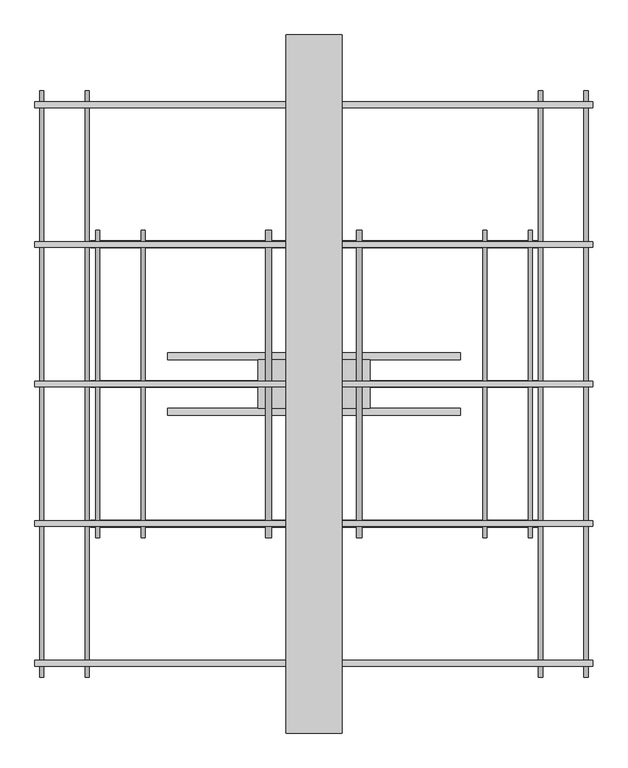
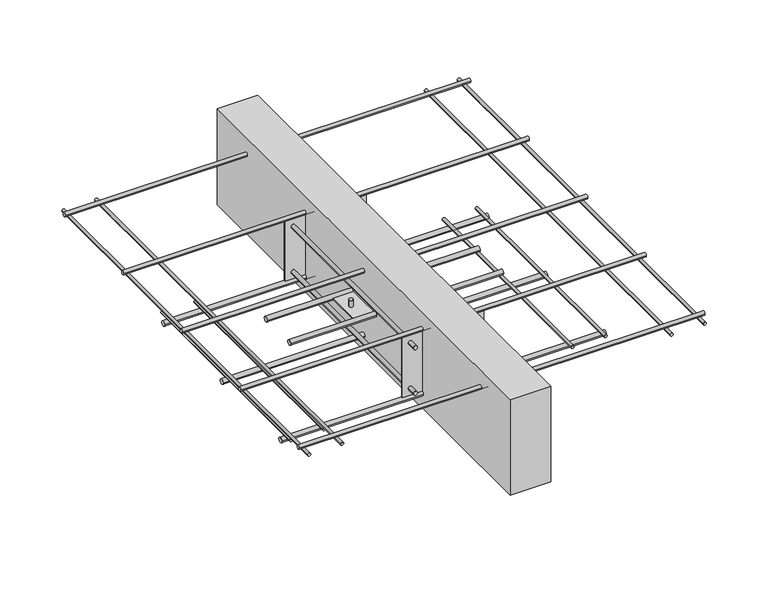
"""IFC4 building model written with IfcOpenShell, lengths in millimetres: proxy geometry, ACINOXplus_Typenreihe_K : KA+ S1."""

from ifc_helpers import new_model, si_unit, point, frame, frame_2d, origin, place, context, project, spatial, polyline, circle_curve, trimmed, segment, composite_curve, outline, extrude, source, transform, mapped, element, save
from ifc_brep_helpers import plane_surface, cylinder_surface, advanced_brep


def generic_models_7b37680f(model_context):
    return source(origin(), model_context, "Body", "SolidModel", [
        extrude(outline(polyline([(40.0, 500.0), (40.0, -500.0), (-40.0, -500.0), (-40.0, 500.0), (40.0, 500.0)])), frame((0.0, 0.0, -200.0), z_axis=(0.0, 0.0, 1.0), x_axis=(1.0, 0.0, 0.0)), (0.0, 0.0, 1.0), 200.0),
        extrude(outline(composite_curve([segment(trimmed(circle_curve(frame_2d((-40.0, -100.5)), 5.0), [point((-45.0, -100.5))], [point((-35.0, -100.5))], False, "CARTESIAN"), True, "CONTINUOUS"), segment(trimmed(circle_curve(frame_2d((-40.0, -100.5)), 5.0), [point((-35.0, -100.5))], [point((-45.0, -100.5))], False, "CARTESIAN"), True, "CONTINUOUS")], self_intersect=False)), frame((-210.0, 0.0, 0.0), z_axis=(1.0, 0.0, 0.0), x_axis=(0.0, 1.0, 0.0)), (0.0, 0.0, 1.0), 420.0),
        extrude(outline(composite_curve([segment(trimmed(circle_curve(frame_2d((40.0, -100.5)), 5.0), [point((35.0, -100.5))], [point((45.0, -100.5))], False, "CARTESIAN"), True, "CONTINUOUS"), segment(trimmed(circle_curve(frame_2d((40.0, -100.5)), 5.0), [point((45.0, -100.5))], [point((35.0, -100.5))], False, "CARTESIAN"), True, "CONTINUOUS")], self_intersect=False)), frame((-210.0, 0.0, 0.0), z_axis=(1.0, 0.0, 0.0), x_axis=(0.0, 1.0, 0.0)), (0.0, 0.0, 1.0), 420.0),
        advanced_brep(
        [(-69.0, 0.0, -85.5), (-61.0, 0.0, -85.5), (61.0, 0.0, -85.5), (69.0, 0.0, -85.5), (-69.0, 0.0, -115.5), (-61.0, 0.0, -115.5), (61.0, 0.0, -115.5), (69.0, 0.0, -115.5), (-69.0, 0.0, -99.0), (-61.0, 0.0, -99.0), (-61.0, 0.0, -102.0), (-69.0, 0.0, -102.0), (61.0, 0.0, -99.0), (69.0, 0.0, -99.0), (69.0, 0.0, -102.0), (61.0, 0.0, -102.0), (80.0, 35.0, -99.0), (-80.0, 35.0, -99.0), (-80.0, -35.0, -99.0), (80.0, -35.0, -99.0), (80.0, 35.0, -102.0), (80.0, -35.0, -102.0), (-80.0, -35.0, -102.0), (-80.0, 35.0, -102.0)],
        [
            (0, 1, circle_curve(frame((-65.0, 0.0, -85.5), z_axis=(0.0, 0.0, 1.0), x_axis=(1.0, 0.0, 0.0)), 4.0)),
            (1, 0, circle_curve(frame((-65.0, 0.0, -85.5), z_axis=(0.0, 0.0, 1.0), x_axis=(1.0, 0.0, 0.0)), 4.0)),
            (2, 3, circle_curve(frame((65.0, 0.0, -85.5), z_axis=(0.0, 0.0, 1.0), x_axis=(1.0, 0.0, 0.0)), 4.0)),
            (3, 2, circle_curve(frame((65.0, 0.0, -85.5), z_axis=(0.0, 0.0, 1.0), x_axis=(1.0, 0.0, 0.0)), 4.0)),
            (4, 5, circle_curve(frame((-65.0, 0.0, -115.5), z_axis=(0.0, 0.0, -1.0), x_axis=(1.0, 0.0, 0.0)), 4.0)),
            (5, 4, circle_curve(frame((-65.0, 0.0, -115.5), z_axis=(0.0, 0.0, -1.0), x_axis=(1.0, 0.0, 0.0)), 4.0)),
            (6, 7, circle_curve(frame((65.0, 0.0, -115.5), z_axis=(0.0, 0.0, -1.0), x_axis=(1.0, 0.0, 0.0)), 4.0)),
            (7, 6, circle_curve(frame((65.0, 0.0, -115.5), z_axis=(0.0, 0.0, -1.0), x_axis=(1.0, 0.0, 0.0)), 4.0)),
            (0, 8),
            (8, 9, circle_curve(frame((-65.0, 0.0, -99.0), z_axis=(0.0, 0.0, 1.0), x_axis=(1.0, 0.0, 0.0)), 4.0)),
            (9, 1),
            (5, 10),
            (10, 11, circle_curve(frame((-65.0, 0.0, -102.0), z_axis=(0.0, 0.0, -1.0), x_axis=(1.0, 0.0, 0.0)), 4.0)),
            (11, 4),
            (9, 8, circle_curve(frame((-65.0, 0.0, -99.0), z_axis=(0.0, 0.0, 1.0), x_axis=(1.0, 0.0, 0.0)), 4.0)),
            (11, 10, circle_curve(frame((-65.0, 0.0, -102.0), z_axis=(0.0, 0.0, -1.0), x_axis=(1.0, 0.0, 0.0)), 4.0)),
            (2, 12),
            (12, 13, circle_curve(frame((65.0, 0.0, -99.0), z_axis=(0.0, 0.0, 1.0), x_axis=(1.0, 0.0, 0.0)), 4.0)),
            (13, 3),
            (7, 14),
            (14, 15, circle_curve(frame((65.0, 0.0, -102.0), z_axis=(0.0, 0.0, -1.0), x_axis=(1.0, 0.0, 0.0)), 4.0)),
            (15, 6),
            (13, 12, circle_curve(frame((65.0, 0.0, -99.0), z_axis=(0.0, 0.0, 1.0), x_axis=(1.0, 0.0, 0.0)), 4.0)),
            (15, 14, circle_curve(frame((65.0, 0.0, -102.0), z_axis=(0.0, 0.0, -1.0), x_axis=(1.0, 0.0, 0.0)), 4.0)),
            (16, 17),
            (17, 18),
            (18, 19),
            (19, 16),
            (20, 21),
            (21, 22),
            (22, 23),
            (23, 20),
            (16, 20),
            (23, 17),
            (22, 18),
            (21, 19),
        ],
        [
            plane_surface(frame((-61.0, 0.0, -85.5), z_axis=(0.0, 0.0, 1.0), x_axis=(0.0, 1.0, 0.0))),
            plane_surface(frame((-61.0, 0.0, -115.5), z_axis=(0.0, 0.0, -1.0), x_axis=(0.0, -1.0, 0.0))),
            cylinder_surface(frame((-65.0, 0.0, -115.5), z_axis=(0.0, 0.0, 1.0), x_axis=(1.0, 0.0, 0.0)), 4.0),
            cylinder_surface(frame((65.0, 0.0, -100.5), z_axis=(0.0, 0.0, 1.0), x_axis=(1.0, 0.0, 0.0)), 4.0),
            plane_surface(frame((-80.0, 35.0, -99.0), z_axis=(0.0, 0.0, 1.0), x_axis=(-1.0, 0.0, 0.0))),
            plane_surface(frame((-80.0, 35.0, -102.0), z_axis=(0.0, 0.0, -1.0), x_axis=(1.0, 0.0, 0.0))),
            plane_surface(frame((80.0, 35.0, -99.0), z_axis=(0.0, 1.0, 0.0), x_axis=(0.0, 0.0, -1.0))),
            plane_surface(frame((-80.0, 35.0, -99.0), z_axis=(-1.0, 0.0, 0.0), x_axis=(0.0, 0.0, -1.0))),
            plane_surface(frame((-80.0, -35.0, -99.0), z_axis=(0.0, -1.0, 0.0), x_axis=(0.0, 0.0, -1.0))),
            plane_surface(frame((80.0, -35.0, -99.0), z_axis=(1.0, 0.0, 0.0), x_axis=(0.0, 0.0, -1.0))),
        ],
        [
            (0, [[1, 2]]),
            (0, [[3, 4]]),
            (1, [[5, 6]]),
            (1, [[7, 8]]),
            (2, [[-1, 9, 10, 11]]),
            (2, [[-6, 12, 13, 14]]),
            (2, [[-2, -11, 15, -9]]),
            (2, [[-5, -14, 16, -12]]),
            (3, [[-3, 17, 18, 19]]),
            (3, [[-8, 20, 21, 22]]),
            (3, [[-4, -19, 23, -17]]),
            (3, [[-7, -22, 24, -20]]),
            (4, [[25, 26, 27, 28], [-10, -15], [-18, -23]]),
            (5, [[29, 30, 31, 32], [-13, -16], [-21, -24]]),
            (6, [[-25, 33, -32, 34]]),
            (7, [[-26, -34, -31, 35]]),
            (8, [[-27, -35, -30, 36]]),
            (9, [[-28, -36, -29, -33]]),
        ],
    ),
        extrude(outline(polyline([(80.0, -198.5), (80.0, -201.5), (-80.0, -201.5), (-80.0, -198.5), (80.0, -198.5)])), frame((0.0, 0.0, -163.0), z_axis=(0.0, 0.0, 1.0), x_axis=(1.0, 0.0, 0.0)), (0.0, 0.0, 1.0), 125.0),
        extrude(outline(polyline([(80.0, 201.5), (80.0, 198.5), (-80.0, 198.5), (-80.0, 201.5), (80.0, 201.5)])), frame((0.0, 0.0, -163.0), z_axis=(0.0, 0.0, 1.0), x_axis=(1.0, 0.0, 0.0)), (0.0, 0.0, 1.0), 125.0),
        extrude(outline(composite_curve([segment(trimmed(circle_curve(frame_2d((-148.0, -65.0)), 4.0), [point((-148.0, -69.0))], [point((-148.0, -61.0))], False, "CARTESIAN"), True, "CONTINUOUS"), segment(trimmed(circle_curve(frame_2d((-148.0, -65.0)), 4.0), [point((-148.0, -61.0))], [point((-148.0, -69.0))], False, "CARTESIAN"), True, "CONTINUOUS")], self_intersect=False)), frame((0.0, 201.5, 0.0), z_axis=(0.0, 1.0, 0.0), x_axis=(0.0, 0.0, 1.0)), (0.0, 0.0, 1.0), 18.5),
        extrude(outline(composite_curve([segment(trimmed(circle_curve(frame_2d((-148.0, -65.0)), 4.0), [point((-148.0, -61.0))], [point((-148.0, -69.0))], False, "CARTESIAN"), True, "CONTINUOUS"), segment(trimmed(circle_curve(frame_2d((-148.0, -65.0)), 4.0), [point((-148.0, -69.0))], [point((-148.0, -61.0))], False, "CARTESIAN"), True, "CONTINUOUS")], self_intersect=False)), frame((0.0, -220.0, 0.0), z_axis=(0.0, 1.0, 0.0), x_axis=(0.0, 0.0, 1.0)), (0.0, 0.0, 1.0), 18.5),
        extrude(outline(composite_curve([segment(trimmed(circle_curve(frame_2d((-148.0, -65.0)), 4.0), [point((-148.0, -69.0))], [point((-148.0, -61.0))], False, "CARTESIAN"), True, "CONTINUOUS"), segment(trimmed(circle_curve(frame_2d((-148.0, -65.0)), 4.0), [point((-148.0, -61.0))], [point((-148.0, -69.0))], False, "CARTESIAN"), True, "CONTINUOUS")], self_intersect=False)), frame((0.0, -198.5, 0.0), z_axis=(0.0, 1.0, 0.0), x_axis=(0.0, 0.0, 1.0)), (0.0, 0.0, 1.0), 397.0),
        extrude(outline(composite_curve([segment(trimmed(circle_curve(frame_2d((-148.0, 65.0)), 4.0), [point((-148.0, 61.0))], [point((-148.0, 69.0))], False, "CARTESIAN"), True, "CONTINUOUS"), segment(trimmed(circle_curve(frame_2d((-148.0, 65.0)), 4.0), [point((-148.0, 69.0))], [point((-148.0, 61.0))], False, "CARTESIAN"), True, "CONTINUOUS")], self_intersect=False)), frame((0.0, 201.5, 0.0), z_axis=(0.0, 1.0, 0.0), x_axis=(0.0, 0.0, 1.0)), (0.0, 0.0, 1.0), 18.5),
        extrude(outline(composite_curve([segment(trimmed(circle_curve(frame_2d((-148.0, 65.0)), 4.0), [point((-148.0, 69.0))], [point((-148.0, 61.0))], False, "CARTESIAN"), True, "CONTINUOUS"), segment(trimmed(circle_curve(frame_2d((-148.0, 65.0)), 4.0), [point((-148.0, 61.0))], [point((-148.0, 69.0))], False, "CARTESIAN"), True, "CONTINUOUS")], self_intersect=False)), frame((0.0, -220.0, 0.0), z_axis=(0.0, 1.0, 0.0), x_axis=(0.0, 0.0, 1.0)), (0.0, 0.0, 1.0), 18.5),
        extrude(outline(composite_curve([segment(trimmed(circle_curve(frame_2d((-148.0, 65.0)), 4.0), [point((-148.0, 61.0))], [point((-148.0, 69.0))], False, "CARTESIAN"), True, "CONTINUOUS"), segment(trimmed(circle_curve(frame_2d((-148.0, 65.0)), 4.0), [point((-148.0, 69.0))], [point((-148.0, 61.0))], False, "CARTESIAN"), True, "CONTINUOUS")], self_intersect=False)), frame((0.0, -198.5, 0.0), z_axis=(0.0, 1.0, 0.0), x_axis=(0.0, 0.0, 1.0)), (0.0, 0.0, 1.0), 397.0),
        extrude(outline(composite_curve([segment(trimmed(circle_curve(frame_2d((-53.0, -65.0)), 4.0), [point((-53.0, -69.0))], [point((-53.0, -61.0))], False, "CARTESIAN"), True, "CONTINUOUS"), segment(trimmed(circle_curve(frame_2d((-53.0, -65.0)), 4.0), [point((-53.0, -61.0))], [point((-53.0, -69.0))], False, "CARTESIAN"), True, "CONTINUOUS")], self_intersect=False)), frame((0.0, 201.5, 0.0), z_axis=(0.0, 1.0, 0.0), x_axis=(0.0, 0.0, 1.0)), (0.0, 0.0, 1.0), 18.5),
        extrude(outline(composite_curve([segment(trimmed(circle_curve(frame_2d((-53.0, -65.0)), 4.0), [point((-53.0, -61.0))], [point((-53.0, -69.0))], False, "CARTESIAN"), True, "CONTINUOUS"), segment(trimmed(circle_curve(frame_2d((-53.0, -65.0)), 4.0), [point((-53.0, -69.0))], [point((-53.0, -61.0))], False, "CARTESIAN"), True, "CONTINUOUS")], self_intersect=False)), frame((0.0, -220.0, 0.0), z_axis=(0.0, 1.0, 0.0), x_axis=(0.0, 0.0, 1.0)), (0.0, 0.0, 1.0), 18.5),
        extrude(outline(composite_curve([segment(trimmed(circle_curve(frame_2d((-53.0, -65.0)), 4.0), [point((-53.0, -69.0))], [point((-53.0, -61.0))], False, "CARTESIAN"), True, "CONTINUOUS"), segment(trimmed(circle_curve(frame_2d((-53.0, -65.0)), 4.0), [point((-53.0, -61.0))], [point((-53.0, -69.0))], False, "CARTESIAN"), True, "CONTINUOUS")], self_intersect=False)), frame((0.0, -198.5, 0.0), z_axis=(0.0, 1.0, 0.0), x_axis=(0.0, 0.0, 1.0)), (0.0, 0.0, 1.0), 397.0),
        extrude(outline(composite_curve([segment(trimmed(circle_curve(frame_2d((-53.0, 65.0)), 4.0), [point((-53.0, 61.0))], [point((-53.0, 69.0))], False, "CARTESIAN"), True, "CONTINUOUS"), segment(trimmed(circle_curve(frame_2d((-53.0, 65.0)), 4.0), [point((-53.0, 69.0))], [point((-53.0, 61.0))], False, "CARTESIAN"), True, "CONTINUOUS")], self_intersect=False)), frame((0.0, 201.5, 0.0), z_axis=(0.0, 1.0, 0.0), x_axis=(0.0, 0.0, 1.0)), (0.0, 0.0, 1.0), 18.5),
        extrude(outline(composite_curve([segment(trimmed(circle_curve(frame_2d((-53.0, 65.0)), 4.0), [point((-53.0, 69.0))], [point((-53.0, 61.0))], False, "CARTESIAN"), True, "CONTINUOUS"), segment(trimmed(circle_curve(frame_2d((-53.0, 65.0)), 4.0), [point((-53.0, 61.0))], [point((-53.0, 69.0))], False, "CARTESIAN"), True, "CONTINUOUS")], self_intersect=False)), frame((0.0, -220.0, 0.0), z_axis=(0.0, 1.0, 0.0), x_axis=(0.0, 0.0, 1.0)), (0.0, 0.0, 1.0), 18.5),
        extrude(outline(composite_curve([segment(trimmed(circle_curve(frame_2d((-53.0, 65.0)), 4.0), [point((-53.0, 61.0))], [point((-53.0, 69.0))], False, "CARTESIAN"), True, "CONTINUOUS"), segment(trimmed(circle_curve(frame_2d((-53.0, 65.0)), 4.0), [point((-53.0, 69.0))], [point((-53.0, 61.0))], False, "CARTESIAN"), True, "CONTINUOUS")], self_intersect=False)), frame((0.0, -198.5, 0.0), z_axis=(0.0, 1.0, 0.0), x_axis=(0.0, 0.0, 1.0)), (0.0, 0.0, 1.0), 397.0),
        extrude(outline(composite_curve([segment(trimmed(circle_curve(frame_2d((0.0, -168.0)), 5.0), [point((-5.0, -168.0))], [point((5.0, -168.0))], False, "CARTESIAN"), True, "CONTINUOUS"), segment(trimmed(circle_curve(frame_2d((0.0, -168.0)), 5.0), [point((5.0, -168.0))], [point((-5.0, -168.0))], False, "CARTESIAN"), True, "CONTINUOUS")], self_intersect=False)), frame((-320.0, 0.0, 0.0), z_axis=(1.0, 0.0, 0.0), x_axis=(0.0, 1.0, 0.0)), (0.0, 0.0, 1.0), 640.0),
        extrude(outline(composite_curve([segment(trimmed(circle_curve(frame_2d((200.0, -168.0)), 5.0), [point((195.0, -168.0))], [point((205.0, -168.0))], False, "CARTESIAN"), True, "CONTINUOUS"), segment(trimmed(circle_curve(frame_2d((200.0, -168.0)), 5.0), [point((205.0, -168.0))], [point((195.0, -168.0))], False, "CARTESIAN"), True, "CONTINUOUS")], self_intersect=False)), frame((-320.0, 0.0, 0.0), z_axis=(1.0, 0.0, 0.0), x_axis=(0.0, 1.0, 0.0)), (0.0, 0.0, 1.0), 640.0),
        extrude(outline(composite_curve([segment(trimmed(circle_curve(frame_2d((-200.0, -168.0)), 5.0), [point((-205.0, -168.0))], [point((-195.0, -168.0))], False, "CARTESIAN"), True, "CONTINUOUS"), segment(trimmed(circle_curve(frame_2d((-200.0, -168.0)), 5.0), [point((-195.0, -168.0))], [point((-205.0, -168.0))], False, "CARTESIAN"), True, "CONTINUOUS")], self_intersect=False)), frame((-320.0, 0.0, 0.0), z_axis=(1.0, 0.0, 0.0), x_axis=(0.0, 1.0, 0.0)), (0.0, 0.0, 1.0), 640.0),
        extrude(outline(composite_curve([segment(trimmed(circle_curve(frame_2d((0.0, -34.0)), 4.0), [point((-4.0, -34.0))], [point((4.0, -34.0))], False, "CARTESIAN"), True, "CONTINUOUS"), segment(trimmed(circle_curve(frame_2d((0.0, -34.0)), 4.0), [point((4.0, -34.0))], [point((-4.0, -34.0))], False, "CARTESIAN"), True, "CONTINUOUS")], self_intersect=False)), frame((-400.0, 0.0, 0.0), z_axis=(1.0, 0.0, 0.0), x_axis=(0.0, 1.0, 0.0)), (0.0, 0.0, 1.0), 800.0),
        extrude(outline(composite_curve([segment(trimmed(circle_curve(frame_2d((200.0, -34.0)), 4.0), [point((196.0, -34.0))], [point((204.0, -34.0))], False, "CARTESIAN"), True, "CONTINUOUS"), segment(trimmed(circle_curve(frame_2d((200.0, -34.0)), 4.0), [point((204.0, -34.0))], [point((196.0, -34.0))], False, "CARTESIAN"), True, "CONTINUOUS")], self_intersect=False)), frame((-400.0, 0.0, 0.0), z_axis=(1.0, 0.0, 0.0), x_axis=(0.0, 1.0, 0.0)), (0.0, 0.0, 1.0), 800.0),
        extrude(outline(composite_curve([segment(trimmed(circle_curve(frame_2d((400.0, -34.0)), 4.0), [point((396.0, -34.0))], [point((404.0, -34.0))], False, "CARTESIAN"), True, "CONTINUOUS"), segment(trimmed(circle_curve(frame_2d((400.0, -34.0)), 4.0), [point((404.0, -34.0))], [point((396.0, -34.0))], False, "CARTESIAN"), True, "CONTINUOUS")], self_intersect=False)), frame((-400.0, 0.0, 0.0), z_axis=(1.0, 0.0, 0.0), x_axis=(0.0, 1.0, 0.0)), (0.0, 0.0, 1.0), 800.0),
        extrude(outline(composite_curve([segment(trimmed(circle_curve(frame_2d((-200.0, -34.0)), 4.0), [point((-204.0, -34.0))], [point((-196.0, -34.0))], False, "CARTESIAN"), True, "CONTINUOUS"), segment(trimmed(circle_curve(frame_2d((-200.0, -34.0)), 4.0), [point((-196.0, -34.0))], [point((-204.0, -34.0))], False, "CARTESIAN"), True, "CONTINUOUS")], self_intersect=False)), frame((-400.0, 0.0, 0.0), z_axis=(1.0, 0.0, 0.0), x_axis=(0.0, 1.0, 0.0)), (0.0, 0.0, 1.0), 800.0),
        extrude(outline(composite_curve([segment(trimmed(circle_curve(frame_2d((-400.0, -34.0)), 4.0), [point((-404.0, -34.0))], [point((-396.0, -34.0))], False, "CARTESIAN"), True, "CONTINUOUS"), segment(trimmed(circle_curve(frame_2d((-400.0, -34.0)), 4.0), [point((-396.0, -34.0))], [point((-404.0, -34.0))], False, "CARTESIAN"), True, "CONTINUOUS")], self_intersect=False)), frame((-400.0, 0.0, 0.0), z_axis=(1.0, 0.0, 0.0), x_axis=(0.0, 1.0, 0.0)), (0.0, 0.0, 1.0), 800.0),
        extrude(outline(composite_curve([segment(trimmed(circle_curve(frame_2d((-160.0, -310.0)), 3.0), [point((-160.0, -307.0))], [point((-160.0, -313.0))], False, "CARTESIAN"), True, "CONTINUOUS"), segment(trimmed(circle_curve(frame_2d((-160.0, -310.0)), 3.0), [point((-160.0, -313.0))], [point((-160.0, -307.0))], False, "CARTESIAN"), True, "CONTINUOUS")], self_intersect=False)), frame((0.0, -220.0, 0.0), z_axis=(0.0, 1.0, 0.0), x_axis=(0.0, 0.0, 1.0)), (0.0, 0.0, 1.0), 440.0),
        extrude(outline(composite_curve([segment(trimmed(circle_curve(frame_2d((-160.0, -245.0)), 3.0), [point((-160.0, -242.0))], [point((-160.0, -248.0))], False, "CARTESIAN"), True, "CONTINUOUS"), segment(trimmed(circle_curve(frame_2d((-160.0, -245.0)), 3.0), [point((-160.0, -248.0))], [point((-160.0, -242.0))], False, "CARTESIAN"), True, "CONTINUOUS")], self_intersect=False)), frame((0.0, -220.0, 0.0), z_axis=(0.0, 1.0, 0.0), x_axis=(0.0, 0.0, 1.0)), (0.0, 0.0, 1.0), 440.0),
        extrude(outline(composite_curve([segment(trimmed(circle_curve(frame_2d((-160.0, 245.0)), 3.0), [point((-160.0, 248.0))], [point((-160.0, 242.0))], False, "CARTESIAN"), True, "CONTINUOUS"), segment(trimmed(circle_curve(frame_2d((-160.0, 245.0)), 3.0), [point((-160.0, 242.0))], [point((-160.0, 248.0))], False, "CARTESIAN"), True, "CONTINUOUS")], self_intersect=False)), frame((0.0, -220.0, 0.0), z_axis=(0.0, 1.0, 0.0), x_axis=(0.0, 0.0, 1.0)), (0.0, 0.0, 1.0), 440.0),
        extrude(outline(composite_curve([segment(trimmed(circle_curve(frame_2d((-160.0, 310.0)), 3.0), [point((-160.0, 313.0))], [point((-160.0, 307.0))], False, "CARTESIAN"), True, "CONTINUOUS"), segment(trimmed(circle_curve(frame_2d((-160.0, 310.0)), 3.0), [point((-160.0, 307.0))], [point((-160.0, 313.0))], False, "CARTESIAN"), True, "CONTINUOUS")], self_intersect=False)), frame((0.0, -220.0, 0.0), z_axis=(0.0, 1.0, 0.0), x_axis=(0.0, 0.0, 1.0)), (0.0, 0.0, 1.0), 440.0),
        extrude(outline(composite_curve([segment(trimmed(circle_curve(frame_2d((-41.0, 325.0)), 3.0), [point((-41.0, 328.0))], [point((-41.0, 322.0))], False, "CARTESIAN"), True, "CONTINUOUS"), segment(trimmed(circle_curve(frame_2d((-41.0, 325.0)), 3.0), [point((-41.0, 322.0))], [point((-41.0, 328.0))], False, "CARTESIAN"), True, "CONTINUOUS")], self_intersect=False)), frame((0.0, -420.0, 0.0), z_axis=(0.0, 1.0, 0.0), x_axis=(0.0, 0.0, 1.0)), (0.0, 0.0, 1.0), 840.0),
        extrude(outline(composite_curve([segment(trimmed(circle_curve(frame_2d((-41.0, 390.0)), 3.0), [point((-41.0, 393.0))], [point((-41.0, 387.0))], False, "CARTESIAN"), True, "CONTINUOUS"), segment(trimmed(circle_curve(frame_2d((-41.0, 390.0)), 3.0), [point((-41.0, 387.0))], [point((-41.0, 393.0))], False, "CARTESIAN"), True, "CONTINUOUS")], self_intersect=False)), frame((0.0, -420.0, 0.0), z_axis=(0.0, 1.0, 0.0), x_axis=(0.0, 0.0, 1.0)), (0.0, 0.0, 1.0), 840.0),
        extrude(outline(composite_curve([segment(trimmed(circle_curve(frame_2d((-41.0, -390.0)), 3.0), [point((-41.0, -387.0))], [point((-41.0, -393.0))], False, "CARTESIAN"), True, "CONTINUOUS"), segment(trimmed(circle_curve(frame_2d((-41.0, -390.0)), 3.0), [point((-41.0, -393.0))], [point((-41.0, -387.0))], False, "CARTESIAN"), True, "CONTINUOUS")], self_intersect=False)), frame((0.0, -420.0, 0.0), z_axis=(0.0, 1.0, 0.0), x_axis=(0.0, 0.0, 1.0)), (0.0, 0.0, 1.0), 840.0),
        extrude(outline(composite_curve([segment(trimmed(circle_curve(frame_2d((-41.0, -325.0)), 3.0), [point((-41.0, -322.0))], [point((-41.0, -328.0))], False, "CARTESIAN"), True, "CONTINUOUS"), segment(trimmed(circle_curve(frame_2d((-41.0, -325.0)), 3.0), [point((-41.0, -328.0))], [point((-41.0, -322.0))], False, "CARTESIAN"), True, "CONTINUOUS")], self_intersect=False)), frame((0.0, -420.0, 0.0), z_axis=(0.0, 1.0, 0.0), x_axis=(0.0, 0.0, 1.0)), (0.0, 0.0, 1.0), 840.0),
    ])


if __name__ == "__main__":
    model = new_model("IFC4")
    model_context = context("Model", 3, world=origin())
    ifc_project = project(units=[si_unit("LENGTHUNIT", "METRE", prefix="MILLI")], contexts=[model_context])
    site = spatial("IfcSite", under=ifc_project)
    building = spatial("IfcBuilding", under=site)
    placement = place(None, origin())
    generic_models_shape = generic_models_7b37680f(model_context)
    element("IfcBuildingElementProxy", 1, Name="ACINOXplus_Typenreihe_K : KA+ S1", ObjectType="ACINOXplus_Typenreihe_K : KA+ S1", at=placement, inside=building, context=model_context, shape_type="MappedRepresentation", body=[
        mapped(generic_models_shape, transform((0.0, 0.0, 0.0), x_axis=(1.0, 0.0, 0.0), y_axis=(0.0, 1.0, 0.0), z_axis=(0.0, 0.0, 1.0))),
    ])
    save(model, "model.ifc")
